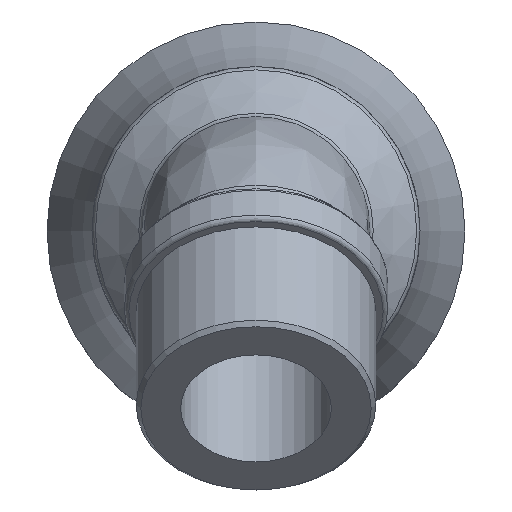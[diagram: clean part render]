
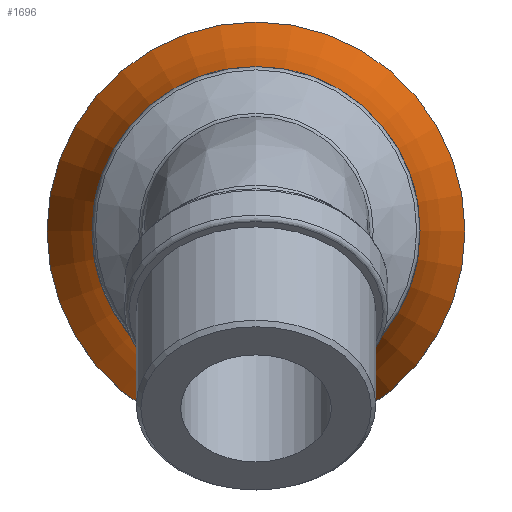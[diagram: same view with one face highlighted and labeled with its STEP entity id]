
A CAD part, top view. The second image highlights one B-rep face of the part: STEP entity #1696.
In plain terms, the highlighted toroidal (fillet/blend) face has major radius 102.029 mm and minor radius 80.796 mm.
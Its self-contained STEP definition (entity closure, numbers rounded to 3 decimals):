
#48=FACE_BOUND('',#485,.T.);
#78=TOROIDAL_SURFACE('',#1909,102.029,80.796);
#351=FACE_OUTER_BOUND('',#484,.T.);
#484=EDGE_LOOP('',(#1412));
#485=EDGE_LOOP('',(#1413));
#593=CIRCLE('',#1844,22.766);
#630=CIRCLE('',#1910,29.);
#717=VERTEX_POINT('',#3230);
#771=VERTEX_POINT('',#4498);
#903=EDGE_CURVE('',#717,#717,#593,.T.);
#988=EDGE_CURVE('',#771,#771,#630,.T.);
#1412=ORIENTED_EDGE('',*,*,#903,.T.);
#1413=ORIENTED_EDGE('',*,*,#988,.F.);
#1696=ADVANCED_FACE('',(#351,#48),#78,.F.);
#1844=AXIS2_PLACEMENT_3D('',#3231,#2211,#2212);
#1909=AXIS2_PLACEMENT_3D('',#4497,#2356,#2357);
#1910=AXIS2_PLACEMENT_3D('',#4499,#2358,#2359);
#2211=DIRECTION('center_axis',(0.,0.,-1.));
#2212=DIRECTION('ref_axis',(1.,0.,0.));
#2356=DIRECTION('center_axis',(0.,0.,-1.));
#2357=DIRECTION('ref_axis',(-1.,0.,0.));
#2358=DIRECTION('center_axis',(0.,0.,-1.));
#2359=DIRECTION('ref_axis',(1.,0.,0.));
#3230=CARTESIAN_POINT('',(0.,47.515,-57.549));
#3231=CARTESIAN_POINT('Origin',(0.,24.749,-57.549));
#4497=CARTESIAN_POINT('Origin',(0.,24.749,-41.883));
#4498=CARTESIAN_POINT('',(0.,53.749,-76.449));
#4499=CARTESIAN_POINT('Origin',(0.,24.749,-76.449));
